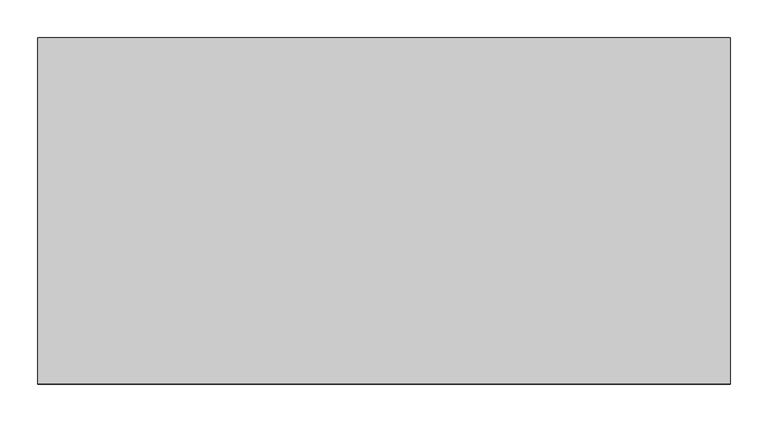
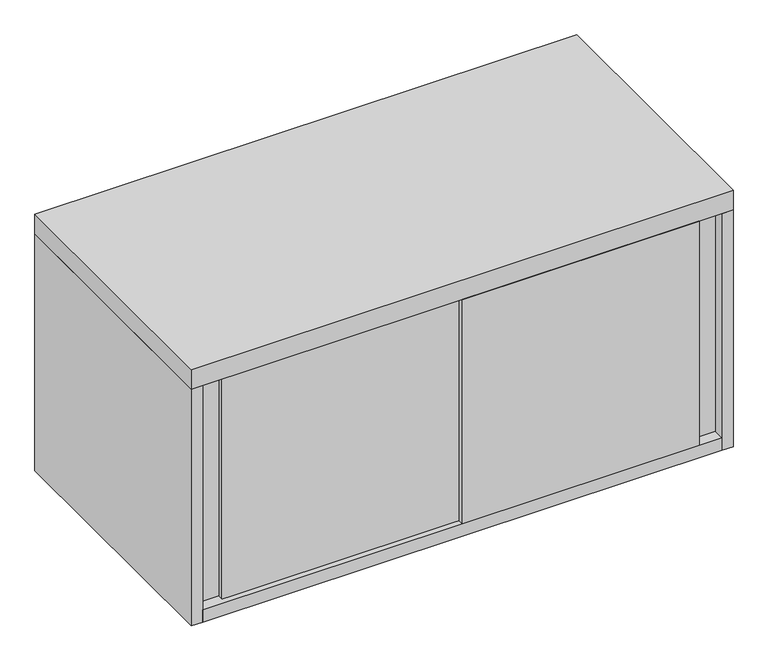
"""IFC4 building model written with IfcOpenShell, lengths in millimetres: furniture geometry, Steelcase - 900 Series - Storage - Overfile Cabinet - Flush Steel : With Sliding Door - 36W x 18H."""

from ifc_helpers import new_model, si_unit, frame, origin, place, context, project, spatial, polyline, outline, extrude, source, transform, mapped, element, save


def furniture_7023f640(model_context):
    return source(origin(), model_context, "Body", "SweptSolid", [
        extrude(outline(polyline([(457.2, -457.2), (457.2, -431.8), (895.0960184, -431.8), (895.0960184, -438.15), (856.9960184, -438.15), (856.9960184, -457.2), (457.2, -457.2)])), frame((0.0, 0.0, 1611.5029516), z_axis=(0.0, 0.0, 1.0), x_axis=(1.0, 0.0, 0.0)), (0.0, 0.0, 1.0), 400.05),
        extrude(outline(polyline([(19.3039998, -431.8), (457.2, -431.8), (457.2, -447.675), (57.1499992, -447.675), (57.1499992, -438.15), (19.3039998, -438.15), (19.3039998, -431.8)])), frame((0.0, 0.0, 1611.5029516), z_axis=(0.0, 0.0, 1.0), x_axis=(1.0, 0.0, 0.0)), (0.0, 0.0, 1.0), 400.05),
        extrude(outline(polyline([(895.0960184, -6.3500002), (895.0960184, -457.2), (19.3039998, -457.2), (19.3039998, -6.3500002), (895.0960184, -6.3500002)])), frame((0.0, 0.0, 1589.278), z_axis=(0.0, 0.0, 1.0), x_axis=(1.0, 0.0, 0.0)), (0.0, 0.0, 1.0), 22.2249516),
        extrude(outline(polyline([(914.4, 0.0), (914.4, -457.2), (0.0, -457.2), (0.0, 0.0), (914.4, 0.0)])), frame((0.0, 0.0, 2011.5529516), z_axis=(0.0, 0.0, 1.0), x_axis=(1.0, 0.0, 0.0)), (0.0, 0.0, 1.0), 34.9250484),
        extrude(outline(polyline([(895.0960184, -6.3500002), (19.3039998, -6.3500002), (19.3039998, -457.2), (0.0, -457.2), (0.0, 0.0), (914.4, 0.0), (914.4, -457.2), (895.0960184, -457.2), (895.0960184, -6.3500002)])), frame((0.0, 0.0, 1589.278), z_axis=(0.0, 0.0, 1.0), x_axis=(1.0, 0.0, 0.0)), (0.0, 0.0, 1.0), 422.2749516),
    ])


if __name__ == "__main__":
    model = new_model("IFC4")
    model_context = context("Model", 3, world=origin())
    ifc_project = project(units=[si_unit("LENGTHUNIT", "METRE", prefix="MILLI")], contexts=[model_context])
    site = spatial("IfcSite", under=ifc_project)
    building = spatial("IfcBuilding", under=site)
    placement = place(None, origin())
    furniture_shape = furniture_7023f640(model_context)
    element("IfcFurniture", 1, ObjectType="Steelcase - 900 Series - Storage - Overfile Cabinet - Flush Steel : With Sliding Door - 36W x 18H", at=placement, inside=building, context=model_context, shape_type="MappedRepresentation", body=[
        mapped(furniture_shape, transform((0.0, 0.0, 0.0), x_axis=(1.0, 0.0, 0.0), y_axis=(0.0, 1.0, 0.0), z_axis=(0.0, 0.0, 1.0))),
    ])
    save(model, "model.ifc")
